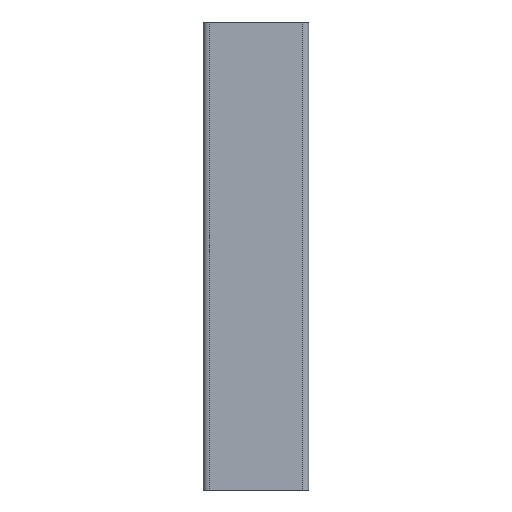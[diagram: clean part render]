
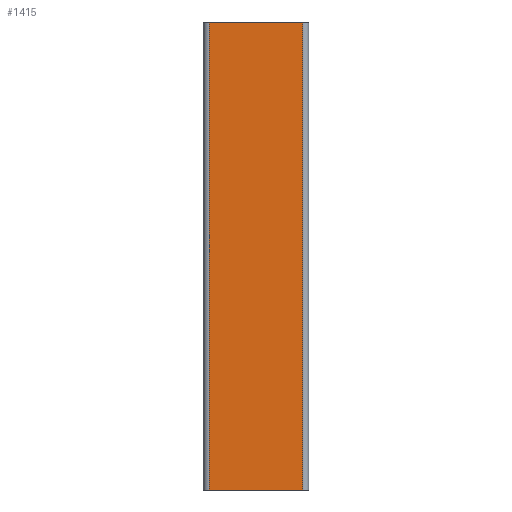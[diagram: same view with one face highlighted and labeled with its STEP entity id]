
A CAD part, left-side view. The second image highlights one B-rep face of the part: STEP entity #1415.
In plain terms, the highlighted planar face has unit normal (-1, 0, 0).
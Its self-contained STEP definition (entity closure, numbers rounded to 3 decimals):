
#267 = AXIS2_PLACEMENT_3D ( 'NONE', #2593, #2616, #2621 ) ;
#417 = VECTOR ( 'NONE', #930, 1000. ) ;
#431 = LINE ( 'NONE', #867, #417 ) ;
#460 = CARTESIAN_POINT ( 'NONE',  ( -22.833, -19.872, 0. ) ) ;
#513 = EDGE_CURVE ( 'NONE', #744, #1674, #431, .T. ) ;
#561 = FACE_OUTER_BOUND ( 'NONE', #1234, .T. ) ;
#744 = VERTEX_POINT ( 'NONE', #2648 ) ;
#790 = CARTESIAN_POINT ( 'NONE',  ( -22.833, 20.128, 0. ) ) ;
#867 = CARTESIAN_POINT ( 'NONE',  ( -22.833, 20.128, 200. ) ) ;
#930 = DIRECTION ( 'NONE',  ( 0., -1., 0. ) ) ;
#983 = VERTEX_POINT ( 'NONE', #460 ) ;
#1008 = VERTEX_POINT ( 'NONE', #790 ) ;
#1234 = EDGE_LOOP ( 'NONE', ( #1867, #1878, #1884, #1900 ) ) ;
#1245 = VECTOR ( 'NONE', #2320, 1000. ) ;
#1287 = LINE ( 'NONE', #2261, #1245 ) ;
#1383 = CARTESIAN_POINT ( 'NONE',  ( -22.833, 20.128, 0. ) ) ;
#1415 = ADVANCED_FACE ( 'NONE', ( #561 ), #2597, .F. ) ;
#1430 = VECTOR ( 'NONE', #2438, 1000. ) ;
#1475 = LINE ( 'NONE', #2478, #1430 ) ;
#1479 = LINE ( 'NONE', #1383, #2838 ) ;
#1674 = VERTEX_POINT ( 'NONE', #3018 ) ;
#1685 = EDGE_CURVE ( 'NONE', #1008, #983, #1479, .T. ) ;
#1867 = ORIENTED_EDGE ( 'NONE', *, *, #1685, .T. ) ;
#1878 = ORIENTED_EDGE ( 'NONE', *, *, #2600, .F. ) ;
#1884 = ORIENTED_EDGE ( 'NONE', *, *, #513, .F. ) ;
#1900 = ORIENTED_EDGE ( 'NONE', *, *, #2570, .T. ) ;
#2261 = CARTESIAN_POINT ( 'NONE',  ( -22.833, -19.872, 200. ) ) ;
#2320 = DIRECTION ( 'NONE',  ( 0., 0., -1. ) ) ;
#2438 = DIRECTION ( 'NONE',  ( 0., 0., -1. ) ) ;
#2478 = CARTESIAN_POINT ( 'NONE',  ( -22.833, 20.128, 200. ) ) ;
#2570 = EDGE_CURVE ( 'NONE', #744, #1008, #1475, .T. ) ;
#2593 = CARTESIAN_POINT ( 'NONE',  ( -22.833, 20.128, 200. ) ) ;
#2597 = PLANE ( 'NONE',  #267 ) ;
#2600 = EDGE_CURVE ( 'NONE', #1674, #983, #1287, .T. ) ;
#2616 = DIRECTION ( 'NONE',  ( 1., 0., 0. ) ) ;
#2621 = DIRECTION ( 'NONE',  ( 0., 1., 0. ) ) ;
#2648 = CARTESIAN_POINT ( 'NONE',  ( -22.833, 20.128, 200. ) ) ;
#2838 = VECTOR ( 'NONE', #3161, 1000. ) ;
#3018 = CARTESIAN_POINT ( 'NONE',  ( -22.833, -19.872, 200. ) ) ;
#3161 = DIRECTION ( 'NONE',  ( 0., -1., 0. ) ) ;
